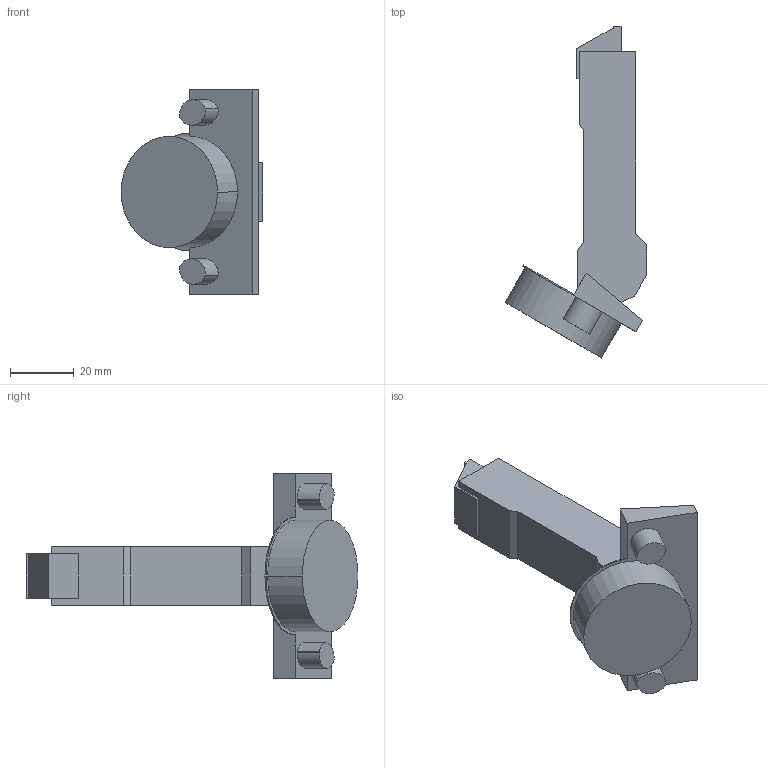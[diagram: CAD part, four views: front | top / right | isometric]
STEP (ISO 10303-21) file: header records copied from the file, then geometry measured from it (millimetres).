
FILE_DESCRIPTION (( 'STEP AP214' ), '1' );
FILE_NAME ('Scharnier TS Impresso 110°_+30° HS_BB, aufliegend, KMPL-37, H00.step', '2018-09-19T13:18:21', ( '' ), ( '' ), 'SwSTEP 2.0', 'SolidWorks 2017', '' );
FILE_SCHEMA (( 'AUTOMOTIVE_DESIGN' ));
Length unit declared in the file: millimetre
Products named in the file (1): Scharnier TS Impresso 110°_+30° HS_BB, aufliegend, KMPL-37, H00
Bounding box: 44.59 x 104.36 x 64.5 mm (x, y, z)
Volume: 47330.6 mm3; surface area: 12857.9 mm2
Topology: 1 solids, 1 shells, 52 faces, 132 edges, 88 vertices
Faces by surface type: plane 37, cylinder 15
Entity records: 1600 total; most frequent: CARTESIAN_POINT 273, DIRECTION 268, ORIENTED_EDGE 264, EDGE_CURVE 132, LINE 102, VECTOR 102, VERTEX_POINT 88, AXIS2_PLACEMENT_3D 83
